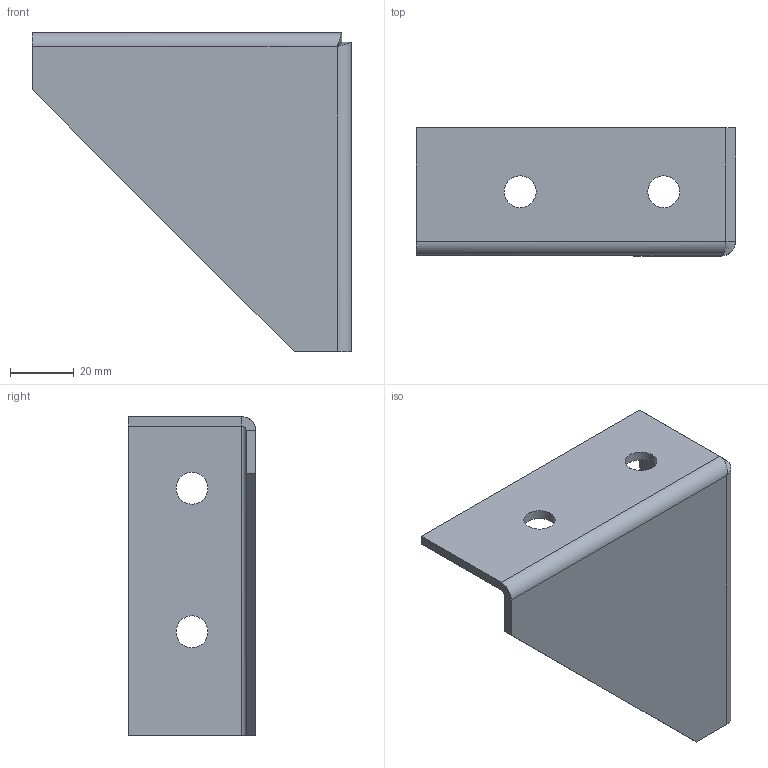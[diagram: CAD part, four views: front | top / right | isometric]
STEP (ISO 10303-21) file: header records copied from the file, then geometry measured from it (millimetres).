
FILE_DESCRIPTION (( 'STEP AP203' ), '1' );
FILE_NAME ('245DK01.STEP', '2018-09-27T14:16:18', ( '' ), ( '' ), 'SwSTEP 2.0', 'SolidWorks 2014', '' );
FILE_SCHEMA (( 'CONFIG_CONTROL_DESIGN' ));
Length unit declared in the file: millimetre
Products named in the file (1): 245DK01
Bounding box: 100 x 40 x 100 mm (x, y, z)
Volume: 39705.3 mm3; surface area: 28341.5 mm2
Topology: 1 solids, 1 shells, 31 faces, 71 edges, 42 vertices
Faces by surface type: plane 17, cylinder 12, bspline 2
Entity records: 1140 total; most frequent: CARTESIAN_POINT 355, DIRECTION 144, ORIENTED_EDGE 142, EDGE_CURVE 71, AXIS2_PLACEMENT_3D 50, VECTOR 44, LINE 44, VERTEX_POINT 42
